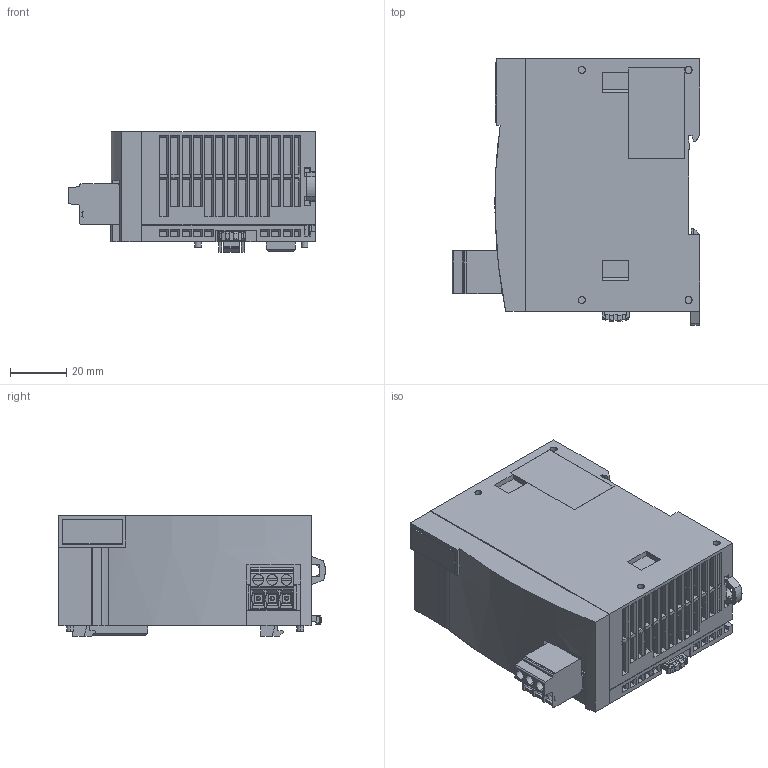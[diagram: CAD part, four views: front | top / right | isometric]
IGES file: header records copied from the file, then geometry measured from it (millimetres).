
Start section: SolidWorks IGES file using analytic representation for surfaces
Global section: file name: C:\IDEC_RD\WEB公開データ\_FC6\IGES\OUTSIDE-FC6A-EXM2.igs; native system: SolidWorks 2014; preprocessor: SolidWorks 2014; author: 1003856; date: 160112.130840; units: millimetre
Bounding box: 88.2 x 95.11 x 43 mm (x, y, z)
Surface area: 55328.2 mm2 (no closed solid volume)
Topology: 0 solids, 0 shells, 1426 faces, 9746 edges, 9730 vertices
Faces by surface type: bspline 1223, revolution 203
